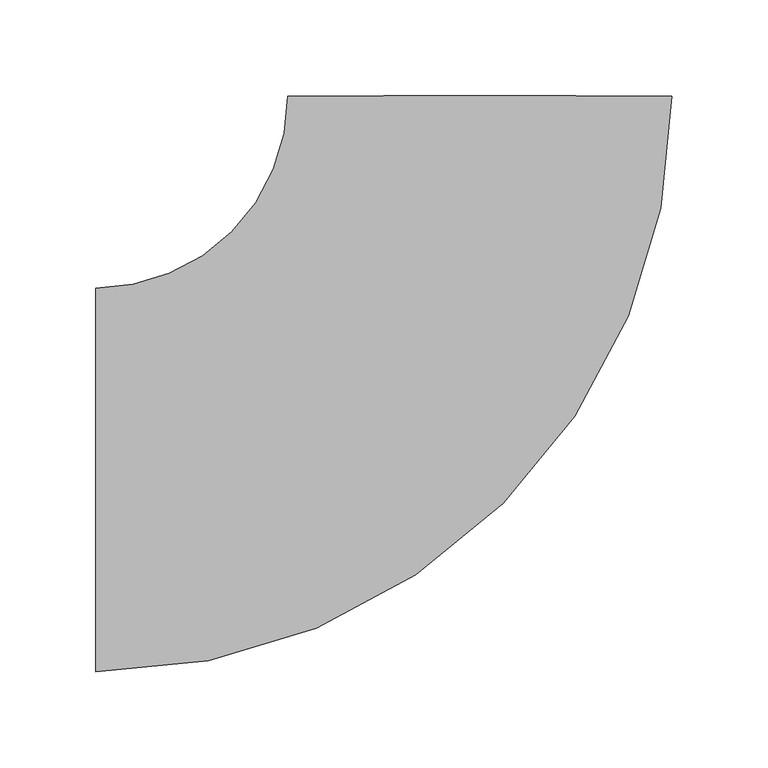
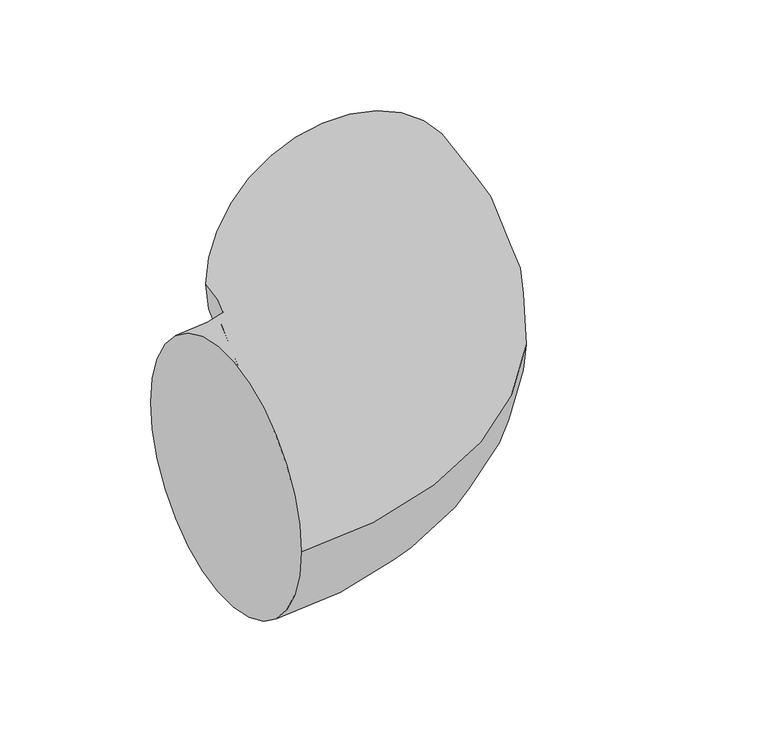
"""IFC4 building model written with IfcOpenShell, lengths in millimetres: duct fitting geometry, magicirc_elbow_full_radius_001 : magicirc_elbow_full_radius_001."""

from ifc_helpers import new_model, si_unit, point, frame, origin, place, context, project, spatial, circle_curve, ellipse_curve, trimmed, source, transform, mapped, element, save
from ifc_brep_helpers import plane_surface, revolved_surface, advanced_brep


def duct_fitting_1955459e(model_context):
    return source(origin(), model_context, "Body", "AdvancedBrep", [
        advanced_brep(
        [(-200.0, -100.0, 0.0), (-200.0, 100.0, 0.0), (100.0, 200.0, 0.0), (-100.0, 200.0, 0.0)],
        [
            (0, 1, circle_curve(frame((-200.0, 0.0, 0.0), z_axis=(-1.0, 0.0, 0.0), x_axis=(0.0, 1.0, 0.0)), 100.0)),
            (1, 0, circle_curve(frame((-200.0, 0.0, 0.0), z_axis=(-1.0, 0.0, 0.0), x_axis=(0.0, 1.0, 0.0)), 100.0)),
            (2, 3, circle_curve(frame((0.0, 200.0, 0.0), z_axis=(0.0, 1.0, 0.0), x_axis=(-1.0, 0.0, 0.0)), 100.0)),
            (3, 2, circle_curve(frame((0.0, 200.0, 0.0), z_axis=(0.0, 1.0, 0.0), x_axis=(-1.0, 0.0, 0.0)), 100.0)),
            (3, 1, circle_curve(frame((-200.0, 200.0, 0.0), z_axis=(0.0, 0.0, -1.0), x_axis=(0.0, -1.0, 0.0)), 100.0)),
            (0, 2, circle_curve(frame((-200.0, 200.0, 0.0), z_axis=(0.0, 0.0, 1.0), x_axis=(0.0, -1.0, 0.0)), 300.0)),
        ],
        [
            plane_surface(frame((-200.0, 0.0, 0.0), z_axis=(-1.0, 0.0, 0.0), x_axis=(0.0, 0.0, 1.0))),
            plane_surface(frame((0.0, 200.0, 0.0), z_axis=(0.0, 1.0, 0.0), x_axis=(0.0, 0.0, 1.0))),
            revolved_surface(trimmed(ellipse_curve(frame((-200.0, 0.0, 0.0), z_axis=(-1.0, 0.0, 0.0), x_axis=(0.0, 1.0, 0.0)), 100.0, 100.0), [point((-200.0, -100.0, 0.0))], [point((-200.0, 100.0, 0.0))], True, "CARTESIAN"), (-200.0, 200.0, 0.0), (0.0, 0.0, 1.0)),
            revolved_surface(trimmed(ellipse_curve(frame((-200.0, 0.0, 0.0), z_axis=(-1.0, 0.0, 0.0), x_axis=(0.0, 1.0, 0.0)), 100.0, 100.0), [point((-200.0, 100.0, 0.0))], [point((-200.0, -100.0, 0.0))], True, "CARTESIAN"), (-200.0, 200.0, 0.0), (0.0, 0.0, 1.0)),
        ],
        [
            (0, [[1, 2]]),
            (1, [[3, 4]]),
            (2, [[5, -1, 6, -4]]),
            (3, [[-6, -2, -5, -3]]),
        ],
    ),
    ])


if __name__ == "__main__":
    model = new_model("IFC4")
    model_context = context("Model", 3, world=origin())
    ifc_project = project(units=[si_unit("LENGTHUNIT", "METRE", prefix="MILLI")], contexts=[model_context])
    site = spatial("IfcSite", under=ifc_project)
    building = spatial("IfcBuilding", under=site)
    placement = place(None, origin())
    duct_fitting_shape = duct_fitting_1955459e(model_context)
    element("IfcDuctFitting", 1, ObjectType="magicirc_elbow_full_radius_001 : magicirc_elbow_full_radius_001", at=placement, inside=building, context=model_context, shape_type="MappedRepresentation", body=[
        mapped(duct_fitting_shape, transform((0.0, 0.0, 0.0), x_axis=(1.0, 0.0, 0.0), y_axis=(0.0, 1.0, 0.0), z_axis=(0.0, 0.0, 1.0))),
    ])
    save(model, "model.ifc")
